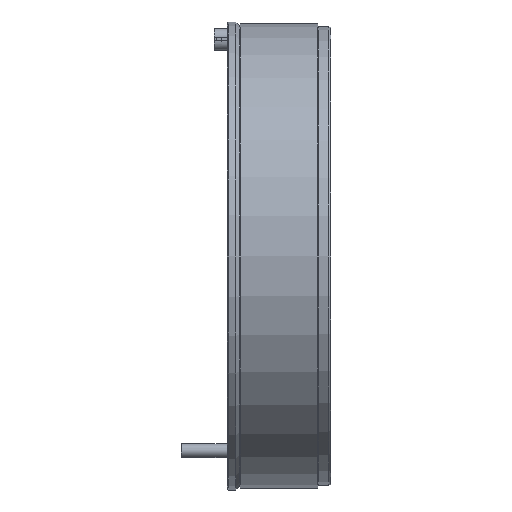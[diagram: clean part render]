
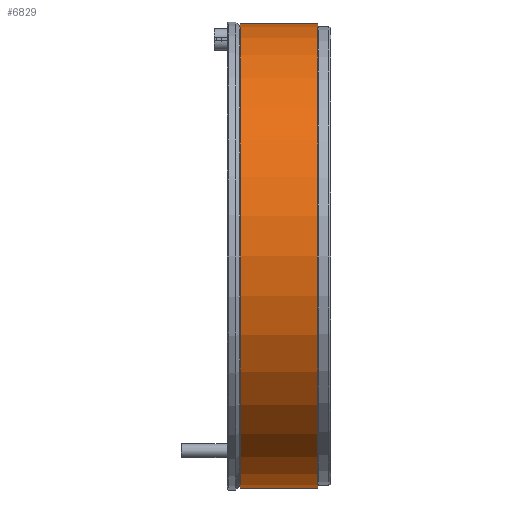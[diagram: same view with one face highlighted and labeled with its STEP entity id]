
A CAD part, left-side view. The second image highlights one B-rep face of the part: STEP entity #6829.
In plain terms, the highlighted cylindrical face has radius 247 mm (diameter 494 mm), a partial arc.
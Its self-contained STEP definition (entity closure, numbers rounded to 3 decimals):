
#404 = EDGE_CURVE ( 'NONE', #4575, #5230, #1207, .T. ) ;
#544 = VECTOR ( 'NONE', #7129, 1000. ) ;
#922 = VERTEX_POINT ( 'NONE', #7421 ) ;
#1002 = ORIENTED_EDGE ( 'NONE', *, *, #9323, .F. ) ;
#1207 = CIRCLE ( 'NONE', #1736, 247. ) ;
#1272 = CIRCLE ( 'NONE', #9188, 247. ) ;
#1339 = VERTEX_POINT ( 'NONE', #6536 ) ;
#1551 = CARTESIAN_POINT ( 'NONE',  ( 0., 14., 0. ) ) ;
#1572 = CARTESIAN_POINT ( 'NONE',  ( 0., 96., -247. ) ) ;
#1615 = DIRECTION ( 'NONE',  ( 0., -1., 0. ) ) ;
#1736 = AXIS2_PLACEMENT_3D ( 'NONE', #6534, #2579, #2485 ) ;
#1843 = LINE ( 'NONE', #3086, #2536 ) ;
#2014 = CARTESIAN_POINT ( 'NONE',  ( 0., 96., 247. ) ) ;
#2071 = AXIS2_PLACEMENT_3D ( 'NONE', #3471, #2725, #4887 ) ;
#2345 = DIRECTION ( 'NONE',  ( 0., 0., -1. ) ) ;
#2485 = DIRECTION ( 'NONE',  ( 0., 0., -1. ) ) ;
#2492 = LINE ( 'NONE', #3613, #544 ) ;
#2536 = VECTOR ( 'NONE', #5343, 1000. ) ;
#2579 = DIRECTION ( 'NONE',  ( 0., -1., 0. ) ) ;
#2655 = EDGE_CURVE ( 'NONE', #1339, #922, #1272, .T. ) ;
#2725 = DIRECTION ( 'NONE',  ( 0., -1., 0. ) ) ;
#3086 = CARTESIAN_POINT ( 'NONE',  ( 0., 0., 247. ) ) ;
#3471 = CARTESIAN_POINT ( 'NONE',  ( 0., 0., 0. ) ) ;
#3613 = CARTESIAN_POINT ( 'NONE',  ( 0., 0., -247. ) ) ;
#3718 = ORIENTED_EDGE ( 'NONE', *, *, #5081, .T. ) ;
#3994 = ORIENTED_EDGE ( 'NONE', *, *, #2655, .F. ) ;
#4575 = VERTEX_POINT ( 'NONE', #2014 ) ;
#4887 = DIRECTION ( 'NONE',  ( 0., 0., -1. ) ) ;
#5081 = EDGE_CURVE ( 'NONE', #5230, #922, #2492, .T. ) ;
#5230 = VERTEX_POINT ( 'NONE', #1572 ) ;
#5343 = DIRECTION ( 'NONE',  ( 0., -1., 0. ) ) ;
#6003 = ORIENTED_EDGE ( 'NONE', *, *, #404, .T. ) ;
#6534 = CARTESIAN_POINT ( 'NONE',  ( 0., 96., 0. ) ) ;
#6536 = CARTESIAN_POINT ( 'NONE',  ( 0., 14., 247. ) ) ;
#6829 = ADVANCED_FACE ( 'NONE', ( #6988 ), #8124, .T. ) ;
#6988 = FACE_OUTER_BOUND ( 'NONE', #8180, .T. ) ;
#7129 = DIRECTION ( 'NONE',  ( 0., -1., 0. ) ) ;
#7421 = CARTESIAN_POINT ( 'NONE',  ( 0., 14., -247. ) ) ;
#8124 = CYLINDRICAL_SURFACE ( 'NONE', #2071, 247. ) ;
#8180 = EDGE_LOOP ( 'NONE', ( #1002, #6003, #3718, #3994 ) ) ;
#9188 = AXIS2_PLACEMENT_3D ( 'NONE', #1551, #1615, #2345 ) ;
#9323 = EDGE_CURVE ( 'NONE', #4575, #1339, #1843, .T. ) ;
